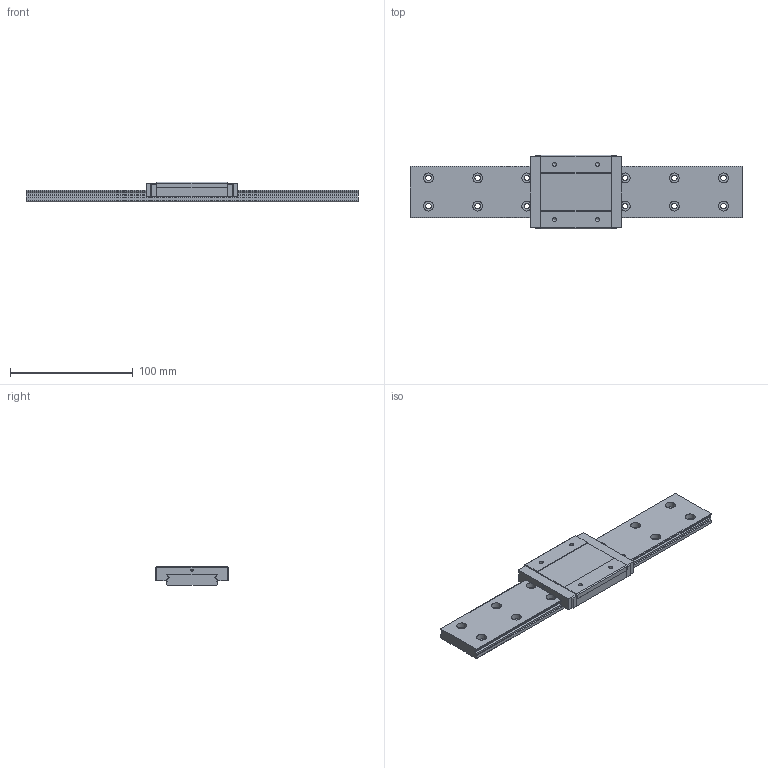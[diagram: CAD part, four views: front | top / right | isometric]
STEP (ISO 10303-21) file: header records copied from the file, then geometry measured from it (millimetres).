
FILE_DESCRIPTION((''),'2;1');
FILE_NAME('C:\Documents and Settings\土屋\My Documents\土屋移動用フォルダ\製品 (図面)\カタログ用3D\リニアガイド\EGM-WL\EGM15WL.stp','2015-02-21T13:19:12',('y'),(''),'Autodesk Inventor 11','Autodesk Inventor 11','');
FILE_SCHEMA(('AUTOMOTIVE_DESIGN { 1 0 10303 214 1 1 1 1 }'));
Length unit declared in the file: millimetre
Products named in the file (3): EGM15WL; EGM15WLレール; EGM15WLベアリング
Assembly tree (2 placements, depth 2):
  EGM15WL
    EGM15WLレール
    EGM15WLベアリング
Bounding box: 270 x 60 x 16 mm (x, y, z)
Volume: 132058.4 mm3; surface area: 44450.6 mm2
Topology: 2 solids, 2 shells, 138 faces, 354 edges, 236 vertices
Faces by surface type: plane 66, bspline 52, cylinder 20
Full cylindrical faces by diameter (mm): 1.9 x1
Entity records: 4555 total; most frequent: CARTESIAN_POINT 1353, ORIENTED_EDGE 616, DIRECTION 596, EDGE_CURVE 308, VERTEX_POINT 228, EDGE_LOOP 220, VECTOR 202, LINE 202
